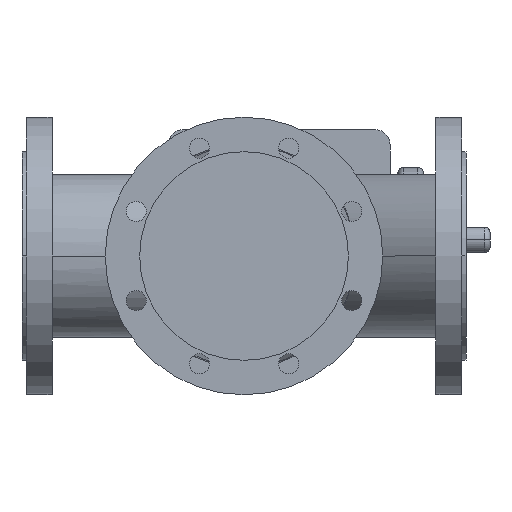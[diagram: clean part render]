
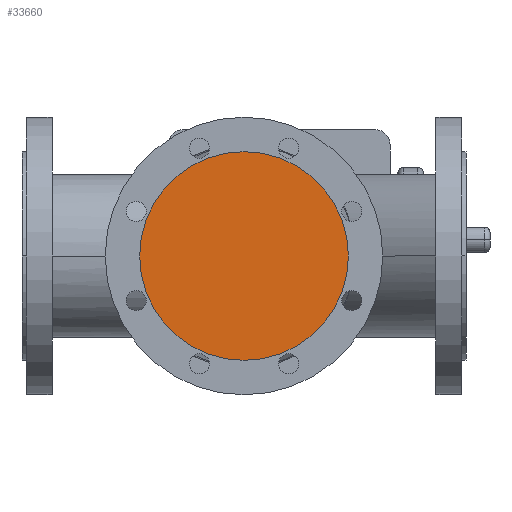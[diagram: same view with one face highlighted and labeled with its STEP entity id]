
A CAD part, front view. The second image highlights one B-rep face of the part: STEP entity #33660.
In plain terms, the highlighted planar face has unit normal (0, -1, 0).
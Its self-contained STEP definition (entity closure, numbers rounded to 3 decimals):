
#5700=CARTESIAN_POINT('',(106.,-200.,0.));
#5710=VERTEX_POINT('',#5700);
#5740=CARTESIAN_POINT('',(200.,-200.,0.));
#5750=DIRECTION('',(0.,1.,0.));
#5760=DIRECTION('',(1.,0.,0.));
#5770=AXIS2_PLACEMENT_3D('',#5740,#5750,#5760);
#5780=CIRCLE('',#5770,94.);
#5790=CARTESIAN_POINT('',(294.,-200.,0.));
#5800=VERTEX_POINT('',#5790);
#5810=EDGE_CURVE('',#5800,#5710,#5780,.T.);
#33560=CARTESIAN_POINT('',(247.,-200.,0.));
#33570=DIRECTION('',(0.,-1.,0.));
#33580=DIRECTION('',(-1.,0.,0.));
#33590=AXIS2_PLACEMENT_3D('',#33560,#33570,#33580);
#33600=PLANE('',#33590);
#33610=EDGE_CURVE('',#5710,#5800,#5780,.T.);
#33620=ORIENTED_EDGE('',*,*,#33610,.F.);
#33630=ORIENTED_EDGE('',*,*,#5810,.F.);
#33640=EDGE_LOOP('',(#33630,#33620));
#33650=FACE_OUTER_BOUND('',#33640,.T.);
#33660=ADVANCED_FACE('',(#33650),#33600,.T.);
